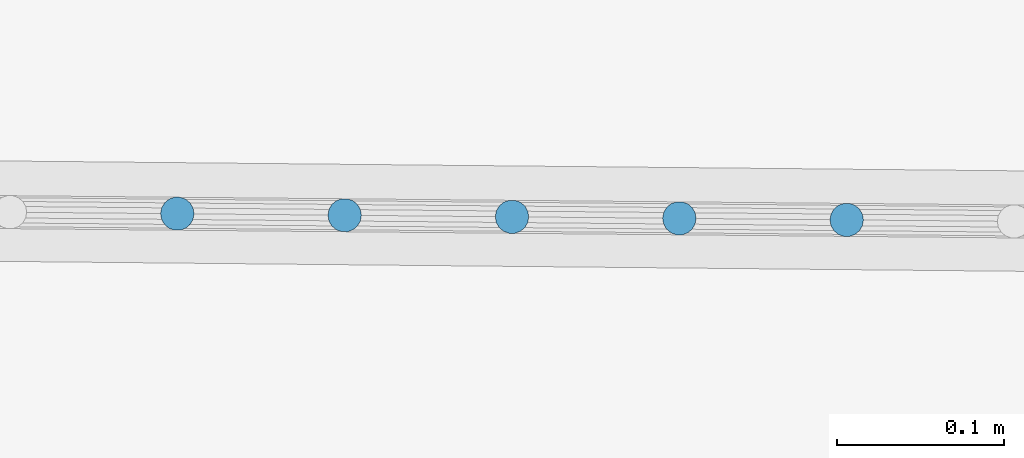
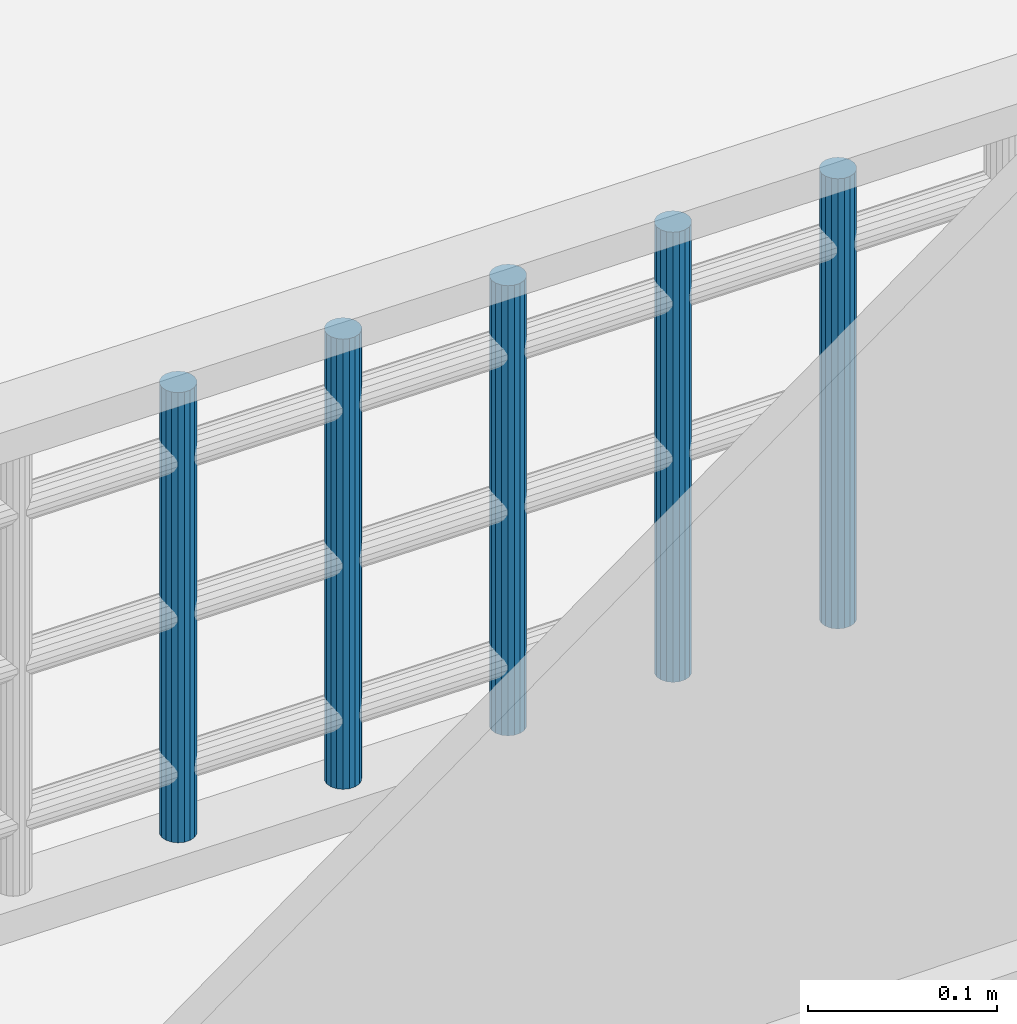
# One storey, part 30 of 72: 5 members, 1 element without a shape of its own.
"""IFC2X3 building model written with IfcOpenShell, lengths in centimetres."""

from ifc_helpers import new_model, entity, si_unit, converted_unit, direction, frame, origin, origin_with_axes, place, context, subcontext, project, spatial, faceted_brep, material, type_object, element, aggregate, save


model = new_model("IFC2X3")

# Units and contexts
model_context = context("Model", 3, precision=0.0001, world=origin(), true_north=direction((0.225632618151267, 0.974212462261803, 0.0)))
body_context = subcontext(model_context, "Body", "Model", "MODEL_VIEW")
ifc_project = project(units=[si_unit("LENGTHUNIT", "METRE", prefix="CENTI"), si_unit("AREAUNIT", "SQUARE_METRE", prefix="CENTI"), si_unit("VOLUMEUNIT", "CUBIC_METRE", prefix="CENTI"), converted_unit("PLANEANGLEUNIT", "DEGREE", entity("IfcRatioMeasure", 0.0174532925), si_unit("PLANEANGLEUNIT", "RADIAN"), dimensions=[0, 0, 0, 0, 0, 0, 0])], contexts=[model_context])

# Site, building, storey
site_placement = place(None, origin_with_axes())
site = spatial("IfcSite", under=ifc_project, at=site_placement, Name="Default Site", CompositionType="ELEMENT")
building_placement = place(site_placement, origin_with_axes())
building = spatial("IfcBuilding", under=site, at=building_placement, Name="Default Building", CompositionType="ELEMENT")
storey_placement = place(building_placement, frame((0.0, 0.0, 853.910374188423), z_axis=(0.0, 0.0, 1.0), x_axis=(1.0, 0.0, 0.0)))
storey = spatial("IfcBuildingStorey", under=building, at=storey_placement, Name="Niveau 2", CompositionType="ELEMENT", Elevation=853.910374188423)

# Assembly, members
building_element_proxy_type = type_object("IfcBuildingElementProxyType", Name="Type Object", PredefinedType="NOTDEFINED")
assembly_placement = place(storey_placement, frame((1081.02208703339, -852.418210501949, 11.9999999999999), z_axis=(0.0, 0.0, 1.0), x_axis=(-0.999957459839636, 0.00922380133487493, 0.0)))
assembly = element("IfcElementAssembly", 1, at=assembly_placement, inside=storey, type_object=building_element_proxy_type, Name="Panneau 1702017", ObjectType="Precast panel", PredefinedType="USERDEFINED")
ifc_material = material(Name="Aluminium satiné")
member_1_placement = place(assembly_placement, frame((57.439690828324, 0.342020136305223, 31.000000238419), z_axis=(0.0, 0.0, 1.0), x_axis=(0.499995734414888, -0.866027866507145, 0.0)))
member_1 = element("IfcMember", 2, at=member_1_placement, material=ifc_material, Name="4294967184", context=body_context, shape_type="Brep", body=[
    faceted_brep([(-3.27515792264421e-13, 6.66133814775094e-14, 3.33066907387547e-13), (-0.347295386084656, 4.9960036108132e-14, 3.33066907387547e-13), (-0.673647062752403, -0.118784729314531, 3.33066907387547e-13), (-0.939691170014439, -0.342025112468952, 3.33066907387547e-13), (-1.11333590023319, -0.642790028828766, 3.33066907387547e-13), (-1.1736423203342, -0.984811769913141, 3.33066907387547e-13), (-1.11333370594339, -1.32683238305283, 3.33066907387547e-13), (-0.939683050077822, -1.62759729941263, 3.33066907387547e-13), (-0.67363781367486, -1.85083429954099, 3.33066907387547e-13), (-0.347285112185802, -1.96961451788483, 3.33066907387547e-13), (1.02738985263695e-05, -1.96961451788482, 3.33066907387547e-13), (0.326361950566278, -1.85082978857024, 3.33066907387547e-13), (0.59240605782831, -1.62758940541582, 3.33066907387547e-13), (0.766050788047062, -1.32682448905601, 3.33066907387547e-13), (0.826357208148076, -0.98480274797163, 3.33066907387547e-13), (0.766048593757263, -0.642782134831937, 3.33066907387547e-13), (0.592397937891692, -0.342017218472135, 3.33066907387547e-13), (0.326352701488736, -0.118780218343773, 3.33066907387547e-13), (0.326352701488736, -0.118780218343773, -29.0000002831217), (0.592397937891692, -0.342017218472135, -29.0000002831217), (0.766048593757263, -0.642782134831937, -29.0000002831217), (0.826357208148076, -0.98480274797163, -29.0000002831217), (0.766050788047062, -1.32682448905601, -29.0000002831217), (0.59240605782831, -1.62758940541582, -29.0000002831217), (0.326361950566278, -1.85082978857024, -29.0000002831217), (1.02738985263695e-05, -1.96961451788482, -29.0000002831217), (-0.347285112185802, -1.96961451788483, -29.0000002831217), (-0.67363781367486, -1.85083429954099, -29.0000002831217), (-0.939683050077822, -1.62759729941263, -29.0000002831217), (-1.11333370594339, -1.32683238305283, -29.0000002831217), (-1.1736423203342, -0.984811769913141, -29.0000002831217), (-1.11333590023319, -0.642790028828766, -29.0000002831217), (-0.939691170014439, -0.342025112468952, -29.0000002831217), (-0.673647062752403, -0.118784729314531, -29.0000002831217), (-0.347295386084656, 4.9960036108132e-14, -29.0000002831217), (-3.27515792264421e-13, 6.66133814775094e-14, -29.0000002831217), (0.592398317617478, -0.342016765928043, 3.33066907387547e-13), (0.592398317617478, -0.342016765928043, -29.0000002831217), (0.766047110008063, -0.642782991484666, 3.33066907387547e-13), (0.766047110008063, -0.642782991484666, -29.0000002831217), (0.826357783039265, -0.98480264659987, 3.33066907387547e-13), (0.826357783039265, -0.98480264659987, -29.0000002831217), (0.766051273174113, -1.32682457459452, 3.33066907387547e-13), (0.766051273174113, -1.32682457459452, -29.0000002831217), (0.592406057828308, -1.62758940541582, 3.33066907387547e-13), (0.592406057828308, -1.62758940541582, -29.0000002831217), (0.326361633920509, -1.85082941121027, 3.33066907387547e-13), (0.326361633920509, -1.85082941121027, -29.0000002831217), (1.00742380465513e-05, -1.96961396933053, 3.33066907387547e-13), (1.00742380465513e-05, -1.96961396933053, -29.0000002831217), (-0.34728511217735, -1.9696162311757, 3.33066907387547e-13), (-0.34728511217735, -1.9696162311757, -29.0000002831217), (-0.673637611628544, -1.85083374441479, 3.33066907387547e-13), (-0.673637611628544, -1.85083374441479, -29.0000002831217), (-0.939683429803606, -1.62759775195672, 3.33066907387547e-13), (-0.939683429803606, -1.62759775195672, -29.0000002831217), (-1.11333222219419, -1.3268315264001, 3.33066907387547e-13), (-1.11333222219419, -1.3268315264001, -29.0000002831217), (-1.17364289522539, -0.984811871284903, 3.33066907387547e-13), (-1.17364289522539, -0.984811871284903, -29.0000002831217), (-1.11333638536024, -0.642789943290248, 3.33066907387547e-13), (-1.11333638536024, -0.642789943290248, -29.0000002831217), (-0.939691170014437, -0.342025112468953, 3.33066907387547e-13), (-0.939691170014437, -0.342025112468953, -29.0000002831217), (-0.673646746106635, -0.118785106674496, 3.33066907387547e-13), (-0.673646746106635, -0.118785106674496, -29.0000002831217), (-0.347295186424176, -5.48554243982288e-07, 3.33066907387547e-13), (-0.347295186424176, -5.48554243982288e-07, -29.0000002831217), (-8.77958777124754e-12, 1.71329092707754e-06, 3.33066907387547e-13), (-8.77958777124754e-12, 1.71329092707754e-06, -29.0000002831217), (0.326352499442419, -0.118780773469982, 3.33066907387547e-13), (0.326352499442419, -0.118780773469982, -29.0000002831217)], [[[0, 1, 2, 3, 4, 5, 6, 7, 8, 9, 10, 11, 12, 13, 14, 15, 16, 17]], [[18, 19, 20, 21, 22, 23, 24, 25, 26, 27, 28, 29, 30, 31, 32, 33, 34, 35]], [[17, 36, 37, 18]], [[16, 38, 39, 19]], [[15, 40, 41, 20]], [[14, 42, 43, 21]], [[13, 44, 45, 22]], [[12, 46, 47, 23]], [[11, 48, 49, 24]], [[10, 50, 51, 25]], [[9, 52, 53, 26]], [[8, 54, 55, 27]], [[7, 56, 57, 28]], [[6, 58, 59, 29]], [[5, 60, 61, 30]], [[4, 62, 63, 31]], [[3, 64, 65, 32]], [[2, 66, 67, 33]], [[1, 68, 69, 34]], [[0, 70, 71, 35]]]),
])
member_2_placement = place(assembly_placement, frame((67.4396932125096, 0.342020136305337, 31.000000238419), z_axis=(0.0, 0.0, 1.0), x_axis=(0.499995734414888, -0.866027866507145, 0.0)))
member_2 = element("IfcMember", 3, at=member_2_placement, material=ifc_material, Name="4294967183", context=body_context, shape_type="Brep", body=[
    faceted_brep([(-3.77475828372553e-13, 2.22044604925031e-14, 3.33066907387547e-13), (-0.347295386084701, 0.0, 3.33066907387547e-13), (-0.673647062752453, -0.118784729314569, 3.33066907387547e-13), (-0.939691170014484, -0.342025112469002, 3.33066907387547e-13), (-1.11333888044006, -0.642795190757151, 3.33066907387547e-13), (-1.17364232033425, -0.984811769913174, 3.33066907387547e-13), (-1.11333370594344, -1.32683238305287, 3.33066907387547e-13), (-0.939686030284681, -1.627602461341, 3.33066907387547e-13), (-0.673640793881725, -1.85083946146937, 3.33066907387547e-13), (-0.347288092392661, -1.96961967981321, 3.33066907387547e-13), (1.02738984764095e-05, -1.96961451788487, 3.33066907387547e-13), (0.326361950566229, -1.85082978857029, 3.33066907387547e-13), (0.592403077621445, -1.62759456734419, 3.33066907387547e-13), (0.766050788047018, -1.32682448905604, 3.33066907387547e-13), (0.826357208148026, -0.98480274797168, 3.33066907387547e-13), (0.766048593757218, -0.642782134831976, 3.33066907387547e-13), (0.592397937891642, -0.342017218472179, 3.33066907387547e-13), (0.326352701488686, -0.118780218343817, 3.33066907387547e-13), (0.326352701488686, -0.118780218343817, -29.0000002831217), (0.592397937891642, -0.342017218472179, -29.0000002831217), (0.766048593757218, -0.642782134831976, -29.0000002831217), (0.826357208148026, -0.98480274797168, -29.0000002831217), (0.766050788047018, -1.32682448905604, -29.0000002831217), (0.592403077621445, -1.62759456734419, -29.0000002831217), (0.326361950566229, -1.85082978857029, -29.0000002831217), (1.02738984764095e-05, -1.96961451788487, -29.0000002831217), (-0.347288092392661, -1.96961967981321, -29.0000002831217), (-0.673640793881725, -1.85083946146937, -29.0000002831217), (-0.939686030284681, -1.627602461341, -29.0000002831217), (-1.11333370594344, -1.32683238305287, -29.0000002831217), (-1.17364232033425, -0.984811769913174, -29.0000002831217), (-1.11333888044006, -0.642795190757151, -29.0000002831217), (-0.939691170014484, -0.342025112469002, -29.0000002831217), (-0.673647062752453, -0.118784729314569, -29.0000002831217), (-0.347295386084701, 0.0, -29.0000002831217), (-3.77475828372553e-13, 2.22044604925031e-14, -29.0000002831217), (0.592398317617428, -0.342016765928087, 3.33066907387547e-13), (0.592398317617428, -0.342016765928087, -29.0000002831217), (0.766047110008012, -0.642782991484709, 3.33066907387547e-13), (0.766047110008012, -0.642782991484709, -29.0000002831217), (0.826357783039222, -0.984802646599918, 3.33066907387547e-13), (0.826357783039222, -0.984802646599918, -29.0000002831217), (0.766051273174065, -1.32682457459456, 3.33066907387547e-13), (0.766051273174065, -1.32682457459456, -29.0000002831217), (0.592403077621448, -1.62759456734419, 3.33066907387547e-13), (0.592403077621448, -1.62759456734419, -29.0000002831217), (0.326362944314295, -1.85083097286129, 3.33066907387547e-13), (0.326362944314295, -1.85083097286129, -29.0000002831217), (1.00742379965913e-05, -1.96961396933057, 3.33066907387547e-13), (1.00742379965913e-05, -1.96961396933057, -29.0000002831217), (-0.347288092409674, -1.96961623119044, 3.33066907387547e-13), (-0.347288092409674, -1.96961623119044, -29.0000002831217), (-0.673640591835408, -1.85083890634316, 3.33066907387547e-13), (-0.673640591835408, -1.85083890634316, -29.0000002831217), (-0.939686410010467, -1.6276029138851, 3.33066907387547e-13), (-0.939686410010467, -1.6276029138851, -29.0000002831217), (-1.11333669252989, -1.32683410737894, 3.33066907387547e-13), (-1.11333669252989, -1.32683410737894, -29.0000002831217), (-1.17364289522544, -0.984811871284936, 3.33066907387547e-13), (-1.17364289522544, -0.984811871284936, -29.0000002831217), (-1.11333735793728, -0.642795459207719, 3.33066907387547e-13), (-1.11333735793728, -0.642795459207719, -29.0000002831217), (-0.939691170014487, -0.342025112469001, 3.33066907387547e-13), (-0.939691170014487, -0.342025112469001, -29.0000002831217), (-0.673646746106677, -0.118785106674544, 3.33066907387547e-13), (-0.673646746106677, -0.118785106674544, -29.0000002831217), (-0.347295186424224, -5.48554282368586e-07, 3.33066907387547e-13), (-0.347295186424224, -5.48554282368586e-07, -29.0000002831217), (-8.82954777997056e-12, 1.71329087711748e-06, 3.33066907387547e-13), (-8.82954777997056e-12, 1.71329087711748e-06, -29.0000002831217), (0.326352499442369, -0.118780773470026, 3.33066907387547e-13), (0.326352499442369, -0.118780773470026, -29.0000002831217)], [[[0, 1, 2, 3, 4, 5, 6, 7, 8, 9, 10, 11, 12, 13, 14, 15, 16, 17]], [[18, 19, 20, 21, 22, 23, 24, 25, 26, 27, 28, 29, 30, 31, 32, 33, 34, 35]], [[17, 36, 37, 18]], [[16, 38, 39, 19]], [[15, 40, 41, 20]], [[14, 42, 43, 21]], [[13, 44, 45, 22]], [[12, 46, 47, 23]], [[11, 48, 49, 24]], [[10, 50, 51, 25]], [[9, 52, 53, 26]], [[8, 54, 55, 27]], [[7, 56, 57, 28]], [[6, 58, 59, 29]], [[5, 60, 61, 30]], [[4, 62, 63, 31]], [[3, 64, 65, 32]], [[2, 66, 67, 33]], [[1, 68, 69, 34]], [[0, 70, 71, 35]]]),
])
member_3_placement = place(assembly_placement, frame((77.4396955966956, 0.342020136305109, 31.000000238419), z_axis=(0.0, 0.0, 1.0), x_axis=(0.500008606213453, -0.866020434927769, 0.0)))
member_3 = element("IfcMember", 4, at=member_3_placement, material=ifc_material, Name="4294967182", context=body_context, shape_type="Brep", body=[
    faceted_brep([(-6.43929354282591e-13, -4.44089209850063e-14, 1.77635683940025e-13), (-0.347298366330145, -5.55111512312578e-14, 1.77635683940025e-13), (-0.673651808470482, -0.118779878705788, 1.77635683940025e-13), (-0.939696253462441, -0.342011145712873, 1.77635683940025e-13), (-1.11334843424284, -0.64277864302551, 1.77635683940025e-13), (-1.17365993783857, -0.984799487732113, 1.77635683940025e-13), (-1.11335640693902, -1.32682099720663, 1.77635683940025e-13), (-0.939710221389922, -1.62758849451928, 1.77635683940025e-13), (-0.673668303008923, -1.85082944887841, 1.77635683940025e-13), (-0.34731736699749, -1.96961451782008, 1.77635683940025e-13), (-2.1980951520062e-05, -1.96961967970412, 1.77635683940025e-13), (0.326331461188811, -1.85083980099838, 1.77635683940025e-13), (0.592378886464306, -1.62760337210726, 1.77635683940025e-13), (0.76603106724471, -1.32683587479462, 1.77635683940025e-13), (0.826339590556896, -0.984820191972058, 1.77635683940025e-13), (0.766036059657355, -0.642798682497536, 1.77635683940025e-13), (0.592392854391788, -0.342026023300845, 1.77635683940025e-13), (0.326347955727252, -0.11879023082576, 1.77635683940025e-13), (0.326347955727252, -0.11879023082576, -29.0000002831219), (0.592392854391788, -0.342026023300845, -29.0000002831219), (0.766036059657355, -0.642798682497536, -29.0000002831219), (0.826339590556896, -0.984820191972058, -29.0000002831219), (0.76603106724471, -1.32683587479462, -29.0000002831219), (0.592378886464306, -1.62760337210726, -29.0000002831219), (0.326331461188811, -1.85083980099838, -29.0000002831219), (-2.1980951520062e-05, -1.96961967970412, -29.0000002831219), (-0.34731736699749, -1.96961451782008, -29.0000002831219), (-0.673668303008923, -1.85082944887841, -29.0000002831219), (-0.939710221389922, -1.62758849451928, -29.0000002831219), (-1.11335640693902, -1.32682099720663, -29.0000002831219), (-1.17365993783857, -0.984799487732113, -29.0000002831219), (-1.11334843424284, -0.64277864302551, -29.0000002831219), (-0.939696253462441, -0.342011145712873, -29.0000002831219), (-0.673651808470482, -0.118779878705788, -29.0000002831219), (-0.347298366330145, -5.55111512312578e-14, -29.0000002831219), (-6.43929354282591e-13, -4.44089209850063e-14, -29.0000002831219), (0.59238946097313, -0.342030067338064, 1.77635683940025e-13), (0.59238946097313, -0.342030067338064, -29.0000002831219), (0.766039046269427, -0.642796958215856, 1.77635683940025e-13), (0.766039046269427, -0.642796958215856, -29.0000002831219), (0.826340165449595, -0.984820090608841, 1.77635683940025e-13), (0.826340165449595, -0.984820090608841, -29.0000002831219), (0.766029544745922, -1.32683560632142, 1.77635683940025e-13), (0.766029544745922, -1.32683560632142, -29.0000002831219), (0.592378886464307, -1.62760337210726, 1.77635683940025e-13), (0.592378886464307, -1.62760337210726, -29.0000002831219), (0.326331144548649, -1.85083942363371, 1.77635683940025e-13), (0.326331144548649, -1.85083942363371, -29.0000002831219), (-2.2180603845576e-05, -1.96961913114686, 1.77635683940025e-13), (-2.2180603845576e-05, -1.96961913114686, -29.0000002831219), (-0.347317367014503, -1.96961623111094, 1.77635683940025e-13), (-0.347317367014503, -1.96961623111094, -29.0000002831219), (-0.673668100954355, -1.8508288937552, 1.77635683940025e-13), (-0.673668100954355, -1.8508288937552, -29.0000002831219), (-0.939710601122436, -1.62758894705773, 1.77635683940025e-13), (-0.939710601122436, -1.62758894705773, -29.0000002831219), (-1.11335492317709, -1.32682014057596, 1.77635683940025e-13), (-1.11335492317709, -1.32682014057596, -29.0000002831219), (-1.17366051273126, -0.984799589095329, 1.77635683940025e-13), (-1.17366051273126, -0.984799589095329, -29.0000002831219), (-1.11334891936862, -0.642778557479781, 1.77635683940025e-13), (-1.11334891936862, -0.642778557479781, -29.0000002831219), (-0.673652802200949, -0.118778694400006, 1.77635683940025e-13), (-0.673652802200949, -0.118778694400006, -29.0000002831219), (-0.34729816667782, -5.48557310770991e-07, 1.77635683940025e-13), (-0.34729816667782, -5.48557310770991e-07, -29.0000002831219), (-3.4888256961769e-11, -3.44862282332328e-06, 1.77635683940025e-13), (-3.4888256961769e-11, -3.44862282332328e-06, -29.0000002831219), (0.326349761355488, -0.118785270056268, 1.77635683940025e-13), (0.326349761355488, -0.118785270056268, -29.0000002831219)], [[[0, 1, 2, 3, 4, 5, 6, 7, 8, 9, 10, 11, 12, 13, 14, 15, 16, 17]], [[18, 19, 20, 21, 22, 23, 24, 25, 26, 27, 28, 29, 30, 31, 32, 33, 34, 35]], [[17, 36, 37, 18]], [[16, 38, 39, 19]], [[15, 40, 41, 20]], [[14, 42, 43, 21]], [[13, 44, 45, 22]], [[12, 46, 47, 23]], [[11, 48, 49, 24]], [[10, 50, 51, 25]], [[9, 52, 53, 26]], [[8, 54, 55, 27]], [[7, 56, 57, 28]], [[6, 58, 59, 29]], [[5, 60, 61, 30]], [[4, 3, 32, 31]], [[3, 62, 63, 32]], [[2, 64, 65, 33]], [[1, 66, 67, 34]], [[0, 68, 69, 35]]]),
])
member_4_placement = place(assembly_placement, frame((87.4396920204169, 0.34202013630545, 31.000000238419), z_axis=(0.0, 0.0, 1.0), x_axis=(0.499995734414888, -0.866027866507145, 0.0)))
member_4 = element("IfcMember", 5, at=member_4_placement, material=ifc_material, Name="4294967181", context=body_context, shape_type="Brep", body=[
    faceted_brep([(-4.49640324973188e-13, -1.77635683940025e-13, 3.33066907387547e-13), (-0.347295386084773, -1.99840144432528e-13, 3.33066907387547e-13), (-0.673647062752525, -0.118784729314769, 3.33066907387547e-13), (-0.939691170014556, -0.342025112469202, 3.33066907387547e-13), (-1.11333590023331, -0.64279002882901, 3.33066907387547e-13), (-1.17364232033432, -0.984811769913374, 3.33066907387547e-13), (-1.11333370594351, -1.32683238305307, 3.33066907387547e-13), (-0.939683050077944, -1.62759729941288, 3.33066907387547e-13), (-0.673637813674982, -1.85083429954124, 3.33066907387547e-13), (-0.347285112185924, -1.96961451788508, 3.33066907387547e-13), (1.0273898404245e-05, -1.96961451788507, 3.33066907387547e-13), (0.326361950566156, -1.85082978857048, 3.33066907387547e-13), (0.592406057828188, -1.62758940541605, 3.33066907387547e-13), (0.766050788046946, -1.32682448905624, 3.33066907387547e-13), (0.826357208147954, -0.98480274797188, 3.33066907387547e-13), (0.766048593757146, -0.642782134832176, 3.33066907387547e-13), (0.59239793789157, -0.342017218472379, 3.33066907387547e-13), (0.326352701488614, -0.118780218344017, 3.33066907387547e-13), (0.326352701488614, -0.118780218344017, -29.0000002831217), (0.59239793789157, -0.342017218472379, -29.0000002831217), (0.766048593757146, -0.642782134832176, -29.0000002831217), (0.826357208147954, -0.98480274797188, -29.0000002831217), (0.766050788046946, -1.32682448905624, -29.0000002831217), (0.592406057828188, -1.62758940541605, -29.0000002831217), (0.326361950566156, -1.85082978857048, -29.0000002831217), (1.0273898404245e-05, -1.96961451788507, -29.0000002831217), (-0.347285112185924, -1.96961451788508, -29.0000002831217), (-0.673637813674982, -1.85083429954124, -29.0000002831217), (-0.939683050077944, -1.62759729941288, -29.0000002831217), (-1.11333370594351, -1.32683238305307, -29.0000002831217), (-1.17364232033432, -0.984811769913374, -29.0000002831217), (-1.11333590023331, -0.64279002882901, -29.0000002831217), (-0.939691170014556, -0.342025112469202, -29.0000002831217), (-0.673647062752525, -0.118784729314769, -29.0000002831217), (-0.347295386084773, -1.99840144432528e-13, -29.0000002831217), (-4.49640324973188e-13, -1.77635683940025e-13, -29.0000002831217), (0.592398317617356, -0.342016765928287, 3.33066907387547e-13), (0.592398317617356, -0.342016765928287, -29.0000002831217), (0.76604711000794, -0.642782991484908, 3.33066907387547e-13), (0.76604711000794, -0.642782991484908, -29.0000002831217), (0.82635778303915, -0.984802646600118, 3.33066907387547e-13), (0.82635778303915, -0.984802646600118, -29.0000002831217), (0.766051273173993, -1.32682457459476, 3.33066907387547e-13), (0.766051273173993, -1.32682457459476, -29.0000002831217), (0.592406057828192, -1.62758940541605, 3.33066907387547e-13), (0.592406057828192, -1.62758940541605, -29.0000002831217), (0.326361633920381, -1.85082941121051, 3.33066907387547e-13), (0.326361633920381, -1.85082941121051, -29.0000002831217), (1.00742379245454e-05, -1.96961396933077, 3.33066907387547e-13), (1.00742379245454e-05, -1.96961396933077, -29.0000002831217), (-0.347285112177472, -1.96961623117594, 3.33066907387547e-13), (-0.347285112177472, -1.96961623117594, -29.0000002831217), (-0.673637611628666, -1.85083374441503, 3.33066907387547e-13), (-0.673637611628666, -1.85083374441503, -29.0000002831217), (-0.939683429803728, -1.62759775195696, 3.33066907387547e-13), (-0.939683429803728, -1.62759775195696, -29.0000002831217), (-1.11333222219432, -1.32683152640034, 3.33066907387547e-13), (-1.11333222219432, -1.32683152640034, -29.0000002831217), (-1.17364289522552, -0.984811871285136, 3.33066907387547e-13), (-1.17364289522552, -0.984811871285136, -29.0000002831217), (-1.11333638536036, -0.642789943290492, 3.33066907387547e-13), (-1.11333638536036, -0.642789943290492, -29.0000002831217), (-0.939691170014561, -0.342025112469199, 3.33066907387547e-13), (-0.939691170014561, -0.342025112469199, -29.0000002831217), (-0.673646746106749, -0.118785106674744, 3.33066907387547e-13), (-0.673646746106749, -0.118785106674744, -29.0000002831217), (-0.347295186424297, -5.4855448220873e-07, 3.33066907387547e-13), (-0.347295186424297, -5.4855448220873e-07, -29.0000002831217), (-8.90171227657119e-12, 1.71329067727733e-06, 3.33066907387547e-13), (-8.90171227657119e-12, 1.71329067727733e-06, -29.0000002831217), (0.326352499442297, -0.118780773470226, 3.33066907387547e-13), (0.326352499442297, -0.118780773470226, -29.0000002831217)], [[[0, 1, 2, 3, 4, 5, 6, 7, 8, 9, 10, 11, 12, 13, 14, 15, 16, 17]], [[18, 19, 20, 21, 22, 23, 24, 25, 26, 27, 28, 29, 30, 31, 32, 33, 34, 35]], [[17, 36, 37, 18]], [[16, 38, 39, 19]], [[15, 40, 41, 20]], [[14, 42, 43, 21]], [[13, 44, 45, 22]], [[12, 46, 47, 23]], [[11, 48, 49, 24]], [[10, 50, 51, 25]], [[9, 52, 53, 26]], [[8, 54, 55, 27]], [[7, 56, 57, 28]], [[6, 58, 59, 29]], [[5, 60, 61, 30]], [[4, 62, 63, 31]], [[3, 64, 65, 32]], [[2, 66, 67, 33]], [[1, 68, 69, 34]], [[0, 70, 71, 35]]]),
])
member_5_placement = place(assembly_placement, frame((97.4396944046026, 0.342020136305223, 31.000000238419), z_axis=(0.0, 0.0, 1.0), x_axis=(0.500008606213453, -0.866020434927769, 0.0)))
member_5 = element("IfcMember", 6, at=member_5_placement, material=ifc_material, Name="4294967180", context=body_context, shape_type="Brep", body=[
    faceted_brep([(-5.05151476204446e-13, -1.33226762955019e-13, 1.77635683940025e-13), (-0.347298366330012, -1.33226762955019e-13, 1.77635683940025e-13), (-0.673648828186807, -0.118774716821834, 1.77635683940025e-13), (-0.939696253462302, -0.342011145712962, 1.77635683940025e-13), (-1.11334843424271, -0.642778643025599, 1.77635683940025e-13), (-1.17365993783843, -0.984799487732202, 1.77635683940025e-13), (-1.11335342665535, -1.32681583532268, 1.77635683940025e-13), (-0.939710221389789, -1.62758849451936, 1.77635683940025e-13), (-0.67366830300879, -1.85082944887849, 1.77635683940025e-13), (-0.347317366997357, -1.96961451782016, 1.77635683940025e-13), (-1.90006678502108e-05, -1.96961451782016, 1.77635683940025e-13), (0.326331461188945, -1.85083980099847, 1.77635683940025e-13), (0.59237888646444, -1.62760337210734, 1.77635683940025e-13), (0.766031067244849, -1.32683587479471, 1.77635683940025e-13), (0.826342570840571, -0.984815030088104, 1.77635683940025e-13), (0.766036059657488, -0.642798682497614, 1.77635683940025e-13), (0.592392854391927, -0.342026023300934, 1.77635683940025e-13), (0.326350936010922, -0.118785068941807, 1.77635683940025e-13), (0.326350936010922, -0.118785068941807, -29.0000002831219), (0.592392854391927, -0.342026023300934, -29.0000002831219), (0.766036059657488, -0.642798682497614, -29.0000002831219), (0.826342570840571, -0.984815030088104, -29.0000002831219), (0.766031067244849, -1.32683587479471, -29.0000002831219), (0.59237888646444, -1.62760337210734, -29.0000002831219), (0.326331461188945, -1.85083980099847, -29.0000002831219), (-1.90006678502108e-05, -1.96961451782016, -29.0000002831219), (-0.347317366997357, -1.96961451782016, -29.0000002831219), (-0.67366830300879, -1.85082944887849, -29.0000002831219), (-0.939710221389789, -1.62758849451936, -29.0000002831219), (-1.11335342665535, -1.32681583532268, -29.0000002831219), (-1.17365993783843, -0.984799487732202, -29.0000002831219), (-1.11334843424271, -0.642778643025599, -29.0000002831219), (-0.939696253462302, -0.342011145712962, -29.0000002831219), (-0.673648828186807, -0.118774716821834, -29.0000002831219), (-0.347298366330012, -1.33226762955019e-13, -29.0000002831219), (-5.05151476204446e-13, -1.33226762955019e-13, -29.0000002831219), (0.592393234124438, -0.342025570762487, 1.77635683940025e-13), (0.592393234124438, -0.342025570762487, -29.0000002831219), (0.766039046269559, -0.642796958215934, 1.77635683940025e-13), (0.766039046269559, -0.642796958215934, -29.0000002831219), (0.826339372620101, -0.984815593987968, 1.77635683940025e-13), (0.826339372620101, -0.984815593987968, -29.0000002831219), (0.766031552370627, -1.32683596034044, 1.77635683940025e-13), (0.766031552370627, -1.32683596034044, -29.0000002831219), (0.592378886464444, -1.62760337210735, 1.77635683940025e-13), (0.592378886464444, -1.62760337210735, -29.0000002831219), (0.326331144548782, -1.8508394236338, 1.77635683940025e-13), (0.326331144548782, -1.8508394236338, -29.0000002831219), (-1.78899698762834e-05, -1.96961756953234, 1.77635683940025e-13), (-1.78899698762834e-05, -1.96961756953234, -29.0000002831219), (-0.347317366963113, -1.96961106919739, 1.77635683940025e-13), (-0.347317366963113, -1.96961106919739, -29.0000002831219), (-0.673668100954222, -1.85082889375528, 1.77635683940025e-13), (-0.673668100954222, -1.85082889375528, -29.0000002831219), (-0.939710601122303, -1.62758894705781, 1.77635683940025e-13), (-0.939710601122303, -1.62758894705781, -29.0000002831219), (-1.11335641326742, -1.32681755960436, 1.77635683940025e-13), (-1.11335641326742, -1.32681755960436, -29.0000002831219), (-1.17365673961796, -0.984798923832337, 1.77635683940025e-13), (-1.17365673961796, -0.984798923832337, -29.0000002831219), (-1.11334891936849, -0.64277855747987, 1.77635683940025e-13), (-1.11334891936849, -0.64277855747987, -29.0000002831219), (-0.939696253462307, -0.342011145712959, 1.77635683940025e-13), (-0.939696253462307, -0.342011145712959, -29.0000002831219), (-0.673648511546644, -0.11877509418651, 1.77635683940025e-13), (-0.673648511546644, -0.11877509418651, -29.0000002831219), (-0.347299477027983, 3.05171203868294e-06, 1.77635683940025e-13), (-0.347299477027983, 3.05171203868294e-06, -29.0000002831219), (-3.47494789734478e-11, -3.44862290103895e-06, 1.77635683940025e-13), (-3.47494789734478e-11, -3.44862290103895e-06, -29.0000002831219), (0.326350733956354, -0.118785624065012, 1.77635683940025e-13), (0.326350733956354, -0.118785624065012, -29.0000002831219)], [[[0, 1, 2, 3, 4, 5, 6, 7, 8, 9, 10, 11, 12, 13, 14, 15, 16, 17]], [[18, 19, 20, 21, 22, 23, 24, 25, 26, 27, 28, 29, 30, 31, 32, 33, 34, 35]], [[17, 36, 37, 18]], [[16, 38, 39, 19]], [[15, 40, 41, 20]], [[14, 42, 43, 21]], [[13, 44, 45, 22]], [[12, 46, 47, 23]], [[11, 48, 49, 24]], [[10, 50, 51, 25]], [[9, 52, 53, 26]], [[8, 54, 55, 27]], [[7, 56, 57, 28]], [[6, 58, 59, 29]], [[5, 60, 61, 30]], [[4, 62, 63, 31]], [[3, 64, 65, 32]], [[2, 66, 67, 33]], [[1, 68, 69, 34]], [[0, 70, 71, 35]]]),
])
aggregate(assembly, [member_1, member_2, member_3, member_4, member_5])

save(model, "model.ifc")
